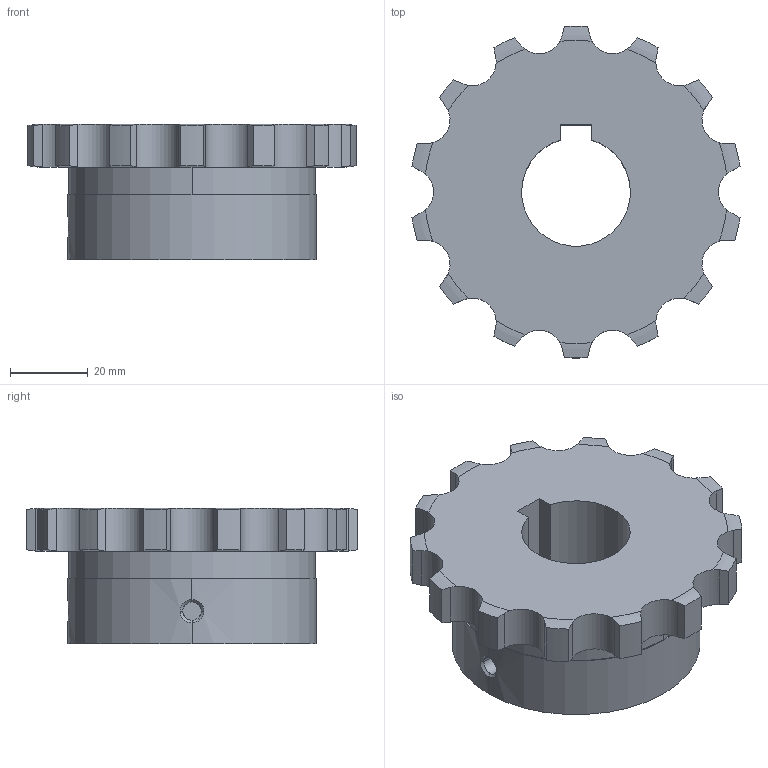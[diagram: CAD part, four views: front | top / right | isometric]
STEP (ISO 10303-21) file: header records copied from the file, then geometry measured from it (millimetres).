
FILE_DESCRIPTION((''),'2;1');
FILE_NAME('510-401-2814_PRT','2021-02-13T',('Brieden'),('Brieden'),'PRO/ENGINEER BY PARAMETRIC TECHNOLOGY CORPORATION, 2010160','PRO/ENGINEER BY PARAMETRIC TECHNOLOGY CORPORATION, 2010160','');
FILE_SCHEMA(('AUTOMOTIVE_DESIGN { 1 0 10303 214 1 1 1 1 }'));
Length unit declared in the file: millimetre
Products named in the file (1): 510-401-2814_PRT
Bounding box: 84.58 x 85.59 x 35 mm (x, y, z)
Volume: 108483.5 mm3; surface area: 20947.8 mm2
Topology: 1 solids, 1 shells, 108 faces, 303 edges, 200 vertices
Faces by surface type: cylinder 65, torus 28, plane 9, bspline 6
Entity records: 5230 total; most frequent: CARTESIAN_POINT 1630, ORIENTED_EDGE 606, DIRECTION 481, PRESENTATION_STYLE_ASSIGNMENT 304, STYLED_ITEM 304, CURVE_STYLE 303, EDGE_CURVE 303, AXIS2_PLACEMENT_3D 200
